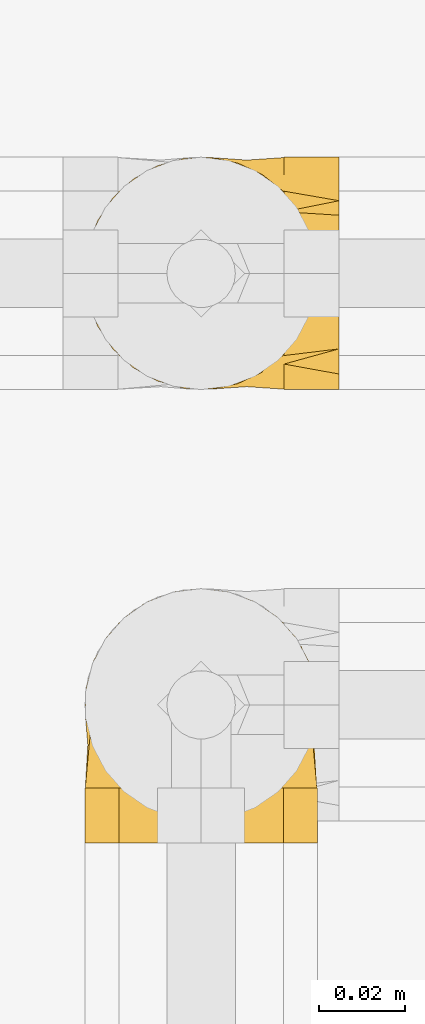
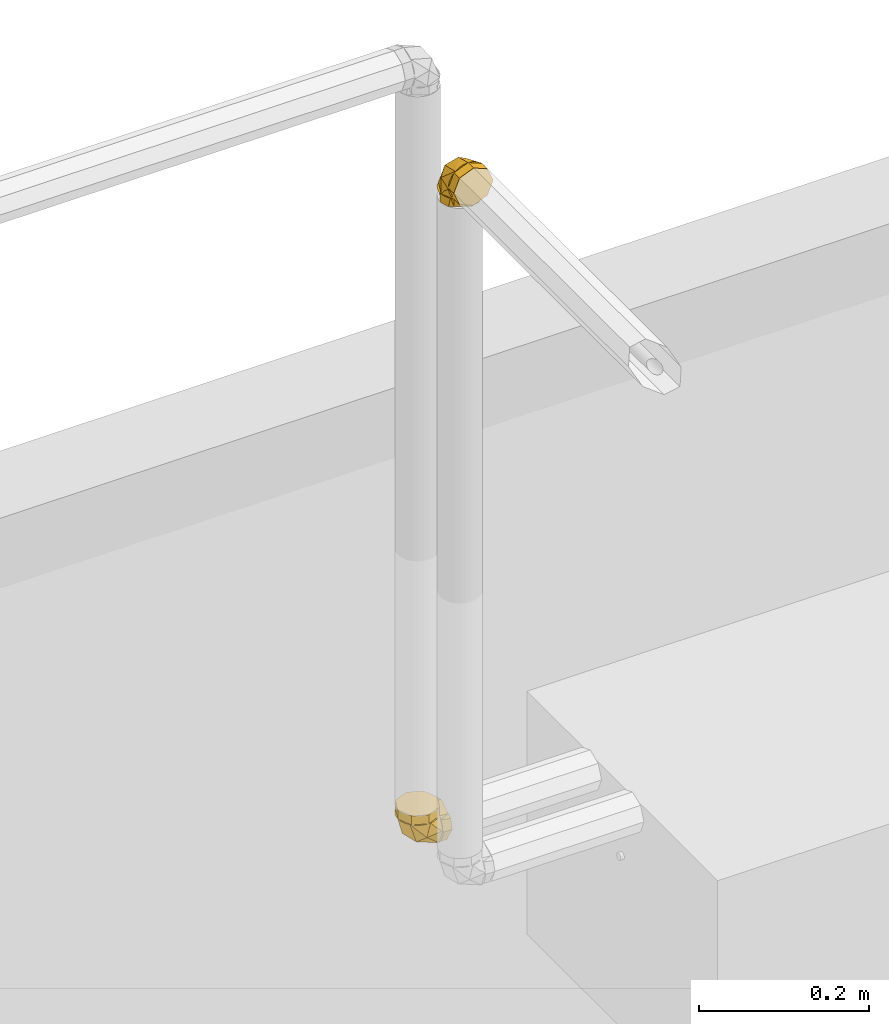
# One storey, part 389 of 652: 2 coverings.
"""IFC2X3 building model written with IfcOpenShell, lengths in millimetres."""

from ifc_helpers import new_model, entity, si_unit, converted_unit, direction, frame, origin, place, context, subcontext, project, spatial, face_set, surface_model, material, type_object, element, save


model = new_model("IFC2X3")

# Units and contexts
model_context = context("Model", 3, precision=0.01, world=frame((0.0, 0.0, 308426.39999999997)), true_north=direction((6.123233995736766e-17, 1.0)))
plan_context = context("Plan", 3, precision=0.01, world=frame((0.0, 0.0, 308426.39999999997)), true_north=direction((6.123233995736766e-17, 1.0)))
body_context = subcontext(model_context, "Body", "Model", "MODEL_VIEW")
ifc_project = project(units=[si_unit("LENGTHUNIT", "METRE", prefix="MILLI"), si_unit("AREAUNIT", "SQUARE_METRE"), si_unit("VOLUMEUNIT", "CUBIC_METRE"), converted_unit("PLANEANGLEUNIT", "DEGREE", entity("IfcPlaneAngleMeasure", 0.017453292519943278), si_unit("PLANEANGLEUNIT", "RADIAN"), dimensions=[0, 0, 0, 0, 0, 0, 0])], contexts=[model_context, plan_context])

# Site, building, storey
site_placement = place(None, origin())
site = spatial("IfcSite", under=ifc_project, at=site_placement, Name="Default", CompositionType="ELEMENT")
building_placement = place(site_placement, origin())
building = spatial("IfcBuilding", under=site, at=building_placement, CompositionType="ELEMENT")
storey_placement = place(building_placement, frame((0.0, 0.0, 1730.6999999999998)))
storey = spatial("IfcBuildingStorey", under=building, at=storey_placement, Name="EG_Produktion_FFB", CompositionType="ELEMENT", Elevation=1730.6999999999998)

# Coverings
ifc_material = material(Name="Dämmung - Armaflex-Schlauch")
covering_type = type_object("IfcCoveringType", Name="Rohrdämmung außen:Armaflex-Schlauch", PredefinedType="INSULATION")
covering_1_placement = place(storey_placement, frame((60221.467227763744, 57376.46722776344, 2731.9837499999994)))
element("IfcCovering", 1, at=covering_1_placement, inside=storey, type_object=covering_type, material=ifc_material, Name="Rohrdämmung außen:Armaflex-Schlauch", ObjectType="Rohrdämmung außen:Armaflex-Schlauch", PredefinedType="INSULATION", context=body_context, shape_type="SurfaceModel", body=[
    surface_model("IfcFaceBasedSurfaceModel", [(47.750272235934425, 47.409122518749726, -12.766250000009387), (42.79223424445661, 5.678961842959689, -12.766250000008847), (37.040242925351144, 2.973980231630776, -12.766250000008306), (30.81456370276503, 1.6920879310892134, -12.766250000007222), (24.461836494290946, 1.904659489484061, -12.76625000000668), (18.3357751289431, 3.5998591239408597, -12.766250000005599), (12.777472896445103, 6.6832997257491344, -12.766250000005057), (8.096410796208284, 10.983298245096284, -12.766250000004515), (4.553225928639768, 16.260434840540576, -12.766250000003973), (2.345199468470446, 22.220883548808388, -12.766250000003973), (1.5952722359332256, 28.532772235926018, -12.766250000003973), (2.345199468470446, 34.84466092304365, -12.766250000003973), (4.553225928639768, 40.80510963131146, -12.766250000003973), (8.096410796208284, 46.08224622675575, -12.766250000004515), (12.777472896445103, 50.382244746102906, -12.766250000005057), (18.3357751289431, 53.465685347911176, -12.766250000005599), (24.461836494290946, 55.160884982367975, -12.76625000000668), (30.81456370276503, 55.373456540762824, -12.766250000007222), (37.040242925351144, 54.09156424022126, -12.766250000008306), (42.79223424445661, 51.38658262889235, -12.766250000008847), (47.750272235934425, 9.656421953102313, -12.766250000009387), (47.750272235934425, 51.38658262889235, -17.724287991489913), (47.750272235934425, 54.09156424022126, -23.47627931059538), (47.750272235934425, 55.373456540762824, -29.701958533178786), (47.750272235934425, 55.160884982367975, -36.05468574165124), (47.750272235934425, 53.465685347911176, -42.18074710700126), (47.750272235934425, 50.382244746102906, -47.73904933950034), (47.75027223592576, 46.08224622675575, -52.42011143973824), (47.75027223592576, 40.80510963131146, -55.963296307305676), (47.75027223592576, 34.84466092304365, -58.17132276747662), (47.75027223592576, 28.532772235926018, -58.92125000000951), (47.75027223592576, 22.220883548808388, -58.17132276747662), (47.75027223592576, 16.260434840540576, -55.963296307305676), (47.75027223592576, 10.983298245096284, -52.42011143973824), (47.750272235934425, 6.6832997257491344, -47.73904933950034), (47.750272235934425, 3.5998591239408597, -42.18074710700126), (47.750272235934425, 1.904659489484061, -36.05468574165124), (47.750272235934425, 1.6920879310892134, -29.701958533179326), (47.750272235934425, 2.973980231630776, -23.476279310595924), (47.750272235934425, 5.678961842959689, -17.724287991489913), (39.06849000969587, 54.790023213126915, -22.709121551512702), (7.77737672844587, 28.531160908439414, -35.84378494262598), (26.95295045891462, 53.464522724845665, -33.56543563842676), (19.45573366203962, 50.729805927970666, -12.766123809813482), (29.48767946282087, 28.531160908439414, -48.37674087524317), (18.67438600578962, 42.78145387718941, -43.184034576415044), (47.75168092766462, 50.729805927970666, -41.06090835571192), (18.67438600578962, 14.285518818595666, -43.184034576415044), (26.95295045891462, 3.5977990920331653, -33.56543563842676), (39.06849000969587, 2.276949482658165, -22.709121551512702), (47.75168092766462, 6.3371667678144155, -41.06090835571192), (19.45573366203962, 6.3371667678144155, -12.766123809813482), (7.512630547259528, 42.818538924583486, 0.0), (5.540177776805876, 38.056616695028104, 0.0), (3.567725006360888, 33.29469446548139, 0.0), (1.5952722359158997, 28.532772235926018, 0.0), (3.567725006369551, 23.770850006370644, 0.0), (5.540177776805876, 19.00892777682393, 0.0), (7.512630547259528, 14.247005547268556, 0.0), (9.485083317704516, 9.48508331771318, 0.0), (14.247005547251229, 7.512630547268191, 0.0), (19.008927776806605, 5.540177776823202, 0.0), (23.770850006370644, 3.567725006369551, 0.0), (28.532772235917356, 1.5952722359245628, 0.0), (33.29469446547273, 3.567725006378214, 0.0), (38.056616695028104, 5.540177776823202, 0.0), (42.81853892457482, 7.512630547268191, 0.0), (47.5804611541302, 9.48508331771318, 0.0), (49.55291392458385, 14.247005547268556, 0.0), (51.525366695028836, 19.00892777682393, 0.0), (53.497819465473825, 23.770850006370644, 0.0), (55.47027223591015, 28.532772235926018, 0.0), (53.497819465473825, 33.29469446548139, 0.0), (51.525366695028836, 38.056616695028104, 0.0), (49.552913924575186, 42.81853892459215, 0.0), (47.5804611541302, 47.58046115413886, 0.0), (42.818538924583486, 49.55291392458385, 0.0), (38.056616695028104, 51.525366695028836, 0.0), (33.29469446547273, 53.497819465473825, 0.0), (28.532772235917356, 55.47027223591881, 0.0), (23.77085000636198, 53.497819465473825, 0.0), (19.008927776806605, 51.525366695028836, 0.0), (14.247005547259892, 49.55291392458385, 0.0), (9.485083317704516, 47.58046115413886, 0.0), (1.5952722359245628, 28.532772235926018, -12.766250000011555), (3.567725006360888, 33.29469446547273, -12.766250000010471), (5.540177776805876, 38.056616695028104, -12.766250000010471), (7.512630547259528, 42.818538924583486, -12.766250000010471), (9.48508331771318, 47.58046115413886, -12.76625000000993), (15.253472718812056, 49.96980627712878, -12.766250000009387), (21.02186211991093, 52.35915140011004, -12.766250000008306), (28.532772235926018, 55.47027223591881, -12.766250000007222), (33.29469446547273, 53.497819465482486, -12.76625000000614), (38.056616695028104, 51.525366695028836, -12.766250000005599), (42.81853892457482, 49.55291392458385, -12.766250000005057), (47.58046115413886, 47.58046115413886, -12.766250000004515), (49.96980627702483, 41.81207175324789, -12.766250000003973), (52.35915139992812, 36.04368235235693, -12.766250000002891), (55.47027223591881, 28.532772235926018, -12.766250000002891), (53.497819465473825, 23.770850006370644, -12.766250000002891), (51.525366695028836, 19.00892777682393, -12.766250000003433), (49.552913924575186, 14.247005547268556, -12.766250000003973), (47.58046115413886, 9.48508331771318, -12.766250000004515), (41.8120717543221, 7.095738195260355, -12.766250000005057), (36.043682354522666, 4.706393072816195, -12.76625000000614), (28.532772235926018, 1.5952722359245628, -12.766250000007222), (23.77085000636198, 3.567725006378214, -12.766250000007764), (19.008927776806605, 5.540177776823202, -12.766250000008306), (14.247005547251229, 7.512630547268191, -12.766250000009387), (9.48508331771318, 9.48508331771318, -12.76625000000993), (7.095738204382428, 15.253472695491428, -12.766250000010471), (4.706393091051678, 21.021862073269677, -12.766250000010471), (60.51652223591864, 28.532772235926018, -58.92125000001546), (60.516522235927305, 34.36491206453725, -55.554062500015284), (60.51652223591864, 40.197051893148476, -52.18687500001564), (60.51652223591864, 46.02919172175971, -48.819687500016), (60.51652223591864, 51.86133155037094, -45.45250000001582), (60.51652223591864, 53.66580189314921, -38.718125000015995), (60.51652223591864, 55.470272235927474, -31.983750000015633), (60.516522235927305, 52.10308473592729, -26.151610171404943), (60.51652223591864, 48.73589723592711, -20.319470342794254), (60.51652223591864, 45.36870973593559, -14.487330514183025), (60.51652223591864, 42.00152223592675, -8.655190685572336), (60.51652223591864, 35.26714723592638, -6.850720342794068), (60.51652223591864, 28.532772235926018, -5.0462500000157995), (60.516522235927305, 22.70063240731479, -8.413437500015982), (60.51652223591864, 16.86849257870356, -11.780625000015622), (60.516522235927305, 11.036352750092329, -15.147812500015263), (60.51652223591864, 5.204212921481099, -18.515000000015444), (60.51652223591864, 3.399742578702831, -25.249375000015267), (60.51652223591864, 1.5952722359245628, -31.983750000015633), (60.51652223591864, 4.962459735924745, -37.81588982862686), (60.51652223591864, 8.329647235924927, -43.64802965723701), (60.516522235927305, 11.696834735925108, -49.480169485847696), (60.51652223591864, 15.064022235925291, -55.31230931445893), (60.51652223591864, 21.798397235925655, -57.116779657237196), (47.75027223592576, 28.532772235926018, -58.92125000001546), (47.75027223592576, 23.770850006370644, -56.948797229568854), (47.75027223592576, 19.00892777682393, -54.9763444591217), (47.75027223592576, 14.247005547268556, -53.00389168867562), (47.75027223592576, 9.48508331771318, -51.03143891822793), (47.75027223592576, 7.512630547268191, -46.26951668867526), (47.75027223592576, 5.540177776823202, -41.50759445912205), (47.75027223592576, 3.567725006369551, -36.74567222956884), (47.75027223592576, 1.5952722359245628, -31.98375000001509), (47.75027223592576, 3.567725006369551, -27.221827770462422), (47.75027223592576, 5.540177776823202, -22.45990554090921), (47.75027223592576, 7.512630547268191, -17.697983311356), (47.75027223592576, 9.48508331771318, -12.936061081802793), (47.7502722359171, 14.247005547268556, -10.963608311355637), (47.75027223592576, 19.00892777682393, -8.991155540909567), (47.75027223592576, 23.770850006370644, -7.018702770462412), (47.75027223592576, 28.532772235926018, -5.046250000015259), (47.750272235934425, 33.29469446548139, -7.018702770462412), (47.75027223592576, 38.056616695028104, -8.991155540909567), (47.750272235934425, 42.818538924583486, -10.963608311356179), (47.75027223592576, 47.58046115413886, -12.936061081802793), (47.75027223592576, 49.55291392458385, -17.697983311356), (47.75027223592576, 51.525366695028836, -22.45990554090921), (47.75027223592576, 53.497819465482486, -27.221827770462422), (47.75027223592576, 55.470272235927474, -31.983750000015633), (47.75027223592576, 53.497819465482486, -36.74567222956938), (47.75027223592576, 51.525366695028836, -41.50759445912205), (47.75027223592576, 49.55291392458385, -46.26951668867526), (47.75027223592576, 47.58046115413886, -51.03143891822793), (47.75027223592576, 42.818538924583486, -53.00389168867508), (47.75027223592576, 38.056616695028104, -54.9763444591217), (47.75027223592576, 33.29469446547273, -56.948797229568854)], [face_set([[[0, 1, 2, 3, 4, 5, 6, 7, 8, 9, 10, 11, 12, 13, 14, 15, 16, 17, 18, 19]], [[20, 21, 22, 23, 24, 25, 26, 27, 28, 29, 30, 31, 32, 33, 34, 35, 36, 37, 38, 39]], [[0, 40, 17]], [[10, 13, 41]], [[23, 42, 40]], [[42, 13, 43]], [[23, 40, 0]], [[17, 40, 42]], [[44, 41, 45]], [[13, 45, 41]], [[27, 30, 44]], [[44, 45, 27]], [[42, 27, 45]], [[42, 23, 46]], [[13, 42, 45]], [[43, 17, 42]], [[46, 27, 42]], [[7, 10, 41]], [[33, 47, 44]], [[44, 30, 33]], [[48, 47, 33]], [[49, 48, 37]], [[48, 50, 37]], [[44, 47, 41]], [[20, 49, 37]], [[47, 48, 7]], [[3, 49, 20]], [[41, 47, 7]], [[48, 3, 51, 7]], [[48, 33, 50]], [[3, 48, 49]]]), face_set([[[52, 53, 54, 55, 56, 57, 58, 59, 60, 61, 62, 63, 64, 65, 66, 67, 68, 69, 70, 71, 72, 73, 74, 75, 76, 77, 78, 79, 80, 81, 82, 83]], [[84, 85, 86, 87, 88, 89, 90, 91, 92, 93, 94, 95, 96, 97, 98, 99, 100, 101, 102, 103, 104, 105, 106, 107, 108, 109, 110, 111]], [[111, 110, 109, 59, 58, 57, 56, 55, 84]], [[59, 109, 108, 107, 106, 105, 63, 62, 61, 60]], [[104, 103, 102, 67, 66, 65, 64, 63, 105]], [[67, 102, 101, 100, 99, 98, 71, 70, 69, 68]], [[97, 96, 95, 75, 74, 73, 72, 71, 98]], [[75, 95, 94, 93, 92, 91, 79, 78, 77, 76]], [[90, 89, 88, 83, 82, 81, 80, 79, 91]], [[83, 88, 87, 86, 85, 84, 55, 54, 53, 52]]]), face_set([[[112, 113, 114, 115, 116, 117, 118, 119, 120, 121, 122, 123, 124, 125, 126, 127, 128, 129, 130, 131, 132, 133, 134, 135]], [[136, 137, 138, 139, 140, 141, 142, 143, 144, 145, 146, 147, 148, 149, 150, 151, 152, 153, 154, 155, 156, 157, 158, 159, 160, 161, 162, 163, 164, 165, 166, 167]], [[155, 121, 156]], [[118, 159, 119]], [[159, 158, 119]], [[123, 154, 153]], [[153, 152, 124]], [[121, 155, 122]], [[120, 158, 157]], [[118, 160, 159]], [[158, 120, 119]], [[124, 123, 153]], [[157, 156, 121]], [[155, 154, 122]], [[123, 122, 154]], [[120, 157, 121]], [[163, 115, 164]], [[112, 167, 113]], [[167, 166, 113]], [[117, 162, 161]], [[161, 160, 118]], [[115, 163, 116]], [[114, 166, 165]], [[112, 136, 167]], [[166, 114, 113]], [[118, 117, 161]], [[165, 164, 115]], [[163, 162, 116]], [[117, 116, 162]], [[114, 165, 115]], [[139, 133, 140]], [[130, 143, 131]], [[143, 142, 131]], [[135, 138, 137]], [[137, 136, 112]], [[133, 139, 134]], [[132, 142, 141]], [[130, 144, 143]], [[142, 132, 131]], [[112, 135, 137]], [[141, 140, 133]], [[139, 138, 134]], [[135, 134, 138]], [[132, 141, 133]], [[147, 127, 148]], [[124, 151, 125]], [[151, 150, 125]], [[129, 146, 145]], [[145, 144, 130]], [[127, 147, 128]], [[126, 150, 149]], [[124, 152, 151]], [[150, 126, 125]], [[130, 129, 145]], [[149, 148, 127]], [[147, 146, 128]], [[129, 128, 146]], [[126, 149, 127]]])]),
])
covering_2_placement = place(storey_placement, frame((60221.46722776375, 57273.01624999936, 3728.5327722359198)))
element("IfcCovering", 2, at=covering_2_placement, inside=storey, type_object=covering_type, material=ifc_material, Name="Rohrdämmung außen:Armaflex-Schlauch", ObjectType="Rohrdämmung außen:Armaflex-Schlauch", PredefinedType="INSULATION", context=body_context, shape_type="SurfaceModel", body=[
    surface_model("IfcFaceBasedSurfaceModel", [(47.409122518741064, 12.766250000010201, -47.75027223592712), (51.38658262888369, 12.766250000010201, -42.79223424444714), (54.0915642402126, 12.766250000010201, -37.040242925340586), (55.37345654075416, 12.766250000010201, -30.814563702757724), (55.16088498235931, 12.766250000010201, -24.461836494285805), (53.465685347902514, 12.766250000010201, -18.335775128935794), (50.38224474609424, 12.766250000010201, -12.77747289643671), (46.08224622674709, 12.766250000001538, -8.096410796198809), (40.8051096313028, 12.766250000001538, -4.553225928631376), (34.844660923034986, 12.766250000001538, -2.3451994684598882), (28.532772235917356, 12.766250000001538, -1.595272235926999), (22.220883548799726, 12.766250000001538, -2.3451994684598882), (16.26043484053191, 12.766250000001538, -4.553225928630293), (10.983298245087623, 12.766250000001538, -8.096410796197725), (6.683299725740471, 12.766250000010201, -12.77747289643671), (3.599859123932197, 12.766250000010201, -18.33577512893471), (1.904659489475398, 12.766250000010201, -24.461836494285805), (1.6920879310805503, 12.766250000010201, -30.814563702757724), (2.973980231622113, 12.766250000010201, -37.040242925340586), (5.678961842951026, 12.766250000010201, -42.79223424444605), (9.65642195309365, 12.766250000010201, -47.75027223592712), (5.678961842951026, 17.72428799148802, -47.75027223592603), (2.973980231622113, 23.476279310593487, -47.75027223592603), (1.6920879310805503, 29.701958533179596, -47.75027223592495), (1.904659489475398, 36.05468574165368, -47.75027223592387), (3.599859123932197, 42.18074710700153, -47.75027223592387), (6.683299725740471, 47.73904933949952, -47.750272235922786), (10.983298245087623, 52.420111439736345, -47.750272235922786), (16.26043484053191, 55.96329630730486, -47.750272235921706), (22.220883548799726, 58.17132276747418, -47.750272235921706), (28.532772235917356, 58.921250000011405, -47.750272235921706), (34.844660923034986, 58.17132276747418, -47.750272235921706), (40.8051096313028, 55.96329630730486, -47.750272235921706), (46.08224622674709, 52.420111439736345, -47.750272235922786), (50.38224474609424, 47.73904933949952, -47.750272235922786), (53.465685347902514, 42.18074710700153, -47.75027223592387), (55.16088498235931, 36.05468574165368, -47.75027223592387), (55.37345654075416, 29.701958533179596, -47.75027223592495), (54.0915642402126, 23.476279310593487, -47.75027223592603), (51.38658262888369, 17.72428799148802, -47.75027223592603), (54.78846071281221, 22.70973877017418, -39.0694268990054), (28.534249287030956, 35.84382080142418, -7.77889497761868), (50.72824342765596, 12.766159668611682, -19.455507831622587), (53.46761110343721, 33.56489013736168, -26.950980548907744), (42.77989137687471, 43.182907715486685, -18.674741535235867), (28.534249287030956, 48.37793945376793, -29.486290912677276), (50.72824342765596, 41.06210693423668, -47.75029237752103), (14.283956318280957, 43.182907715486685, -18.674741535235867), (3.6008874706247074, 33.56489013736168, -26.950980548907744), (2.275386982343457, 22.70973877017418, -39.0694268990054), (6.335604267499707, 41.06210693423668, -47.75029237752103), (6.335604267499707, 12.766159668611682, -19.455507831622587), (28.532772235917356, 0.0, -1.5952722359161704), (23.77085000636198, 0.0, -3.567725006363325), (19.008927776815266, 0.0, -5.540177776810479), (14.247005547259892, 0.0, -7.51263054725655), (9.485083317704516, 0.0, -9.485083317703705), (7.512630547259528, 0.0, -14.247005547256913), (5.54017777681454, 0.0, -19.008927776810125), (3.567725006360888, 0.0, -23.770850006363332), (1.5952722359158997, 0.0, -28.532772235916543), (3.567725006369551, 0.0, -33.29469446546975), (5.54017777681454, 0.0, -38.05661669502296), (7.512630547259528, 0.0, -42.818538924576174), (9.485083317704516, 0.0, -47.58046115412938), (14.247005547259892, 0.0, -49.552913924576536), (19.008927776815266, 0.0, -51.52536669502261), (23.77085000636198, 0.0, -53.49781946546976), (28.532772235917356, 0.0, -55.470272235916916), (33.29469446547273, 0.0, -53.49781946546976), (38.05661669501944, 0.0, -51.52536669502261), (42.81853892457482, 0.0, -49.552913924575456), (47.5804611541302, 0.0, -47.58046115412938), (49.55291392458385, 0.0, -42.818538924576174), (51.525366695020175, 0.0, -38.05661669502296), (53.49781946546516, 0.0, -33.29469446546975), (55.47027223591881, 0.0, -28.532772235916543), (53.497819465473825, 0.0, -23.770850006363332), (51.525366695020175, 0.0, -19.008927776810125), (49.552913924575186, 0.0, -14.247005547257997), (47.5804611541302, 0.0, -9.485083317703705), (42.81853892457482, 0.0, -7.51263054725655), (38.05661669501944, 0.0, -5.540177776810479), (33.29469446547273, 0.0, -3.567725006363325), (28.532772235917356, 12.766250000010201, -1.5952722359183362), (33.29469446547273, 12.766250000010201, -3.567725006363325), (38.05661669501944, 12.766250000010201, -5.540177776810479), (42.81853892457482, 12.766250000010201, -7.512630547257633), (47.5804611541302, 12.766250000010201, -9.48508331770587), (49.96980627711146, 12.766250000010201, -15.25347271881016), (52.35915140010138, 12.766250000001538, -21.021862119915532), (55.47027223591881, 12.766250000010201, -28.53277223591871), (53.497819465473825, 12.766250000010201, -33.29469446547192), (51.525366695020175, 12.766250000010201, -38.05661669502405), (49.552913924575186, 12.766250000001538, -42.818538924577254), (47.5804611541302, 12.766250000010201, -47.58046115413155), (41.81207175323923, 12.766250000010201, -49.96980627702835), (36.04368235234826, 12.766250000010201, -52.35915139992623), (28.532772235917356, 12.766250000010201, -55.47027223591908), (23.77085000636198, 12.766250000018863, -53.49781946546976), (19.008927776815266, 12.766250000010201, -51.52536669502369), (14.247005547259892, 12.766250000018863, -49.552913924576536), (9.485083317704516, 12.766250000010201, -47.58046115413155), (7.095738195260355, 12.766250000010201, -41.81207175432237), (4.706393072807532, 12.766250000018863, -36.04368235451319), (1.5952722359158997, 12.766250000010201, -28.53277223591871), (3.567725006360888, 12.766250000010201, -23.7708500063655), (5.54017777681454, 12.766250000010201, -19.008927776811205), (7.512630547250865, 12.766250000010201, -14.247005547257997), (9.485083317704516, 12.766250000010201, -9.48508331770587), (15.253472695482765, 12.766250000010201, -7.095738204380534), (21.021862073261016, 12.766250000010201, -4.7063930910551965), (28.532772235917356, 58.921250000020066, -60.51652223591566), (34.36491206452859, 55.55406250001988, -60.51652223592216), (40.197051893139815, 52.186875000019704, -60.51652223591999), (46.02919172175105, 48.81968750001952, -60.516522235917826), (51.86133155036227, 45.452500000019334, -60.51652223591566), (53.66580189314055, 38.71812500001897, -60.51652223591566), (55.47027223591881, 31.98375000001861, -60.51652223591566), (52.10308473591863, 26.151610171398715, -60.51652223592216), (48.73589723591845, 20.319470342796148, -60.51652223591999), (45.368709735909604, 14.487330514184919, -60.516522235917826), (42.00152223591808, 8.65519068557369, -60.51652223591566), (35.26714723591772, 6.850720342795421, -60.51652223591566), (28.532772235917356, 5.046250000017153, -60.51652223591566), (22.700632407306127, 8.413437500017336, -60.51652223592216), (16.868492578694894, 11.780625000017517, -60.51652223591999), (11.036352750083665, 15.1478125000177, -60.516522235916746), (5.204212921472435, 18.51500000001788, -60.51652223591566), (3.3997425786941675, 25.249375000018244, -60.51652223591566), (1.5952722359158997, 31.98375000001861, -60.51652223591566), (4.962459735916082, 37.81588982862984, -60.51652223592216), (8.329647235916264, 43.64802965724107, -60.51652223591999), (11.696834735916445, 49.48016948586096, -60.516522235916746), (15.064022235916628, 55.312309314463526, -60.51652223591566), (21.79839723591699, 57.1167796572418, -60.51652223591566), (28.532772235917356, 58.921250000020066, -47.75027223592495), (23.77085000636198, 56.94879722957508, -47.75027223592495), (19.008927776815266, 54.97634445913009, -47.75027223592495), (14.247005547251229, 53.00389168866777, -47.75027223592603), (9.485083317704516, 51.03143891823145, -47.75027223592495), (7.512630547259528, 46.26951668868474, -47.75027223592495), (5.54017777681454, 41.50759445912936, -47.75027223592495), (3.567725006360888, 36.74567222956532, -47.75027223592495), (1.5952722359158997, 31.98375000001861, -47.75027223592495), (3.567725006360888, 27.221827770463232, -47.75027223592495), (5.54017777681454, 22.459905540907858, -47.75027223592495), (7.512630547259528, 17.697983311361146, -47.75027223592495), (9.485083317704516, 12.93606108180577, -47.75027223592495), (14.247005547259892, 10.963608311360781, -47.75027223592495), (19.008927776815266, 8.99115554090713, -47.75027223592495), (23.77085000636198, 7.018702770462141, -47.75027223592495), (28.532772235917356, 5.046250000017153, -47.75027223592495), (33.29469446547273, 7.018702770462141, -47.75027223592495), (38.05661669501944, 8.99115554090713, -47.75027223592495), (42.818538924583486, 10.963608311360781, -47.75027223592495), (47.5804611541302, 12.93606108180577, -47.75027223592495), (49.552913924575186, 17.697983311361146, -47.75027223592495), (51.525366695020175, 22.459905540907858, -47.75027223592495), (53.497819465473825, 27.221827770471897, -47.75027223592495), (55.47027223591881, 31.98375000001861, -47.75027223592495), (53.497819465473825, 36.745672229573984, -47.75027223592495), (51.525366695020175, 41.50759445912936, -47.75027223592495), (49.552913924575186, 46.26951668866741, -47.75027223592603), (47.5804611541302, 51.03143891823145, -47.75027223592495), (42.81853892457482, 53.00389168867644, -47.75027223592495), (38.05661669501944, 54.97634445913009, -47.75027223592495), (33.29469446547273, 56.948797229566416, -47.75027223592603)], [face_set([[[0, 1, 2, 3, 4, 5, 6, 7, 8, 9, 10, 11, 12, 13, 14, 15, 16, 17, 18, 19]], [[20, 21, 22, 23, 24, 25, 26, 27, 28, 29, 30, 31, 32, 33, 34, 35, 36, 37, 38, 39]], [[0, 40, 3]], [[10, 7, 41]], [[42, 3, 43, 7]], [[40, 43, 3]], [[37, 40, 0]], [[7, 43, 44]], [[45, 41, 44]], [[7, 44, 41]], [[33, 30, 45]], [[45, 44, 33]], [[43, 33, 44]], [[43, 37, 46]], [[37, 43, 40]], [[46, 33, 43]], [[13, 10, 41]], [[27, 47, 45]], [[45, 30, 27]], [[48, 47, 27]], [[49, 48, 23]], [[48, 50, 23]], [[45, 47, 41]], [[20, 49, 23]], [[47, 48, 13]], [[17, 49, 20]], [[41, 47, 13]], [[48, 17, 51]], [[48, 27, 50]], [[17, 48, 49]], [[51, 13, 48]]]), face_set([[[52, 53, 54, 55, 56, 57, 58, 59, 60, 61, 62, 63, 64, 65, 66, 67, 68, 69, 70, 71, 72, 73, 74, 75, 76, 77, 78, 79, 80, 81, 82, 83]], [[84, 85, 86, 87, 88, 89, 90, 91, 92, 93, 94, 95, 96, 97, 98, 99, 100, 101, 102, 103, 104, 105, 106, 107, 108, 109, 110, 111]], [[111, 110, 109, 56, 55, 54, 53, 52, 84]], [[56, 109, 108, 107, 106, 105, 60, 59, 58, 57]], [[104, 103, 102, 64, 63, 62, 61, 60, 105]], [[64, 102, 101, 100, 99, 98, 68, 67, 66, 65]], [[97, 96, 95, 72, 71, 70, 69, 68, 98]], [[72, 95, 94, 93, 92, 91, 76, 75, 74, 73]], [[90, 89, 88, 80, 79, 78, 77, 76, 91]], [[80, 88, 87, 86, 85, 84, 52, 83, 82, 81]]]), face_set([[[112, 113, 114, 115, 116, 117, 118, 119, 120, 121, 122, 123, 124, 125, 126, 127, 128, 129, 130, 131, 132, 133, 134, 135]], [[136, 137, 138, 139, 140, 141, 142, 143, 144, 145, 146, 147, 148, 149, 150, 151, 152, 153, 154, 155, 156, 157, 158, 159, 160, 161, 162, 163, 164, 165, 166, 167]], [[155, 121, 156]], [[118, 159, 119]], [[159, 158, 119]], [[123, 154, 153]], [[153, 152, 124]], [[121, 155, 122]], [[120, 158, 157]], [[118, 160, 159]], [[158, 120, 119]], [[124, 123, 153]], [[157, 156, 121]], [[155, 154, 122]], [[123, 122, 154]], [[120, 157, 121]], [[163, 115, 164]], [[112, 167, 113]], [[167, 166, 113]], [[117, 162, 161]], [[161, 160, 118]], [[115, 163, 116]], [[114, 166, 165]], [[112, 136, 167]], [[166, 114, 113]], [[118, 117, 161]], [[165, 164, 115]], [[163, 162, 116]], [[117, 116, 162]], [[114, 165, 115]], [[139, 133, 140]], [[130, 143, 131]], [[143, 142, 131]], [[135, 138, 137]], [[137, 136, 112]], [[133, 139, 134]], [[132, 142, 141]], [[130, 144, 143]], [[142, 132, 131]], [[112, 135, 137]], [[141, 140, 133]], [[139, 138, 134]], [[135, 134, 138]], [[132, 141, 133]], [[147, 127, 148]], [[124, 151, 125]], [[151, 150, 125]], [[129, 146, 145]], [[145, 144, 130]], [[127, 147, 128]], [[126, 150, 149]], [[124, 152, 151]], [[150, 126, 125]], [[130, 129, 145]], [[149, 148, 127]], [[147, 146, 128]], [[129, 128, 146]], [[126, 149, 127]]])]),
])

save(model, "model.ifc")
